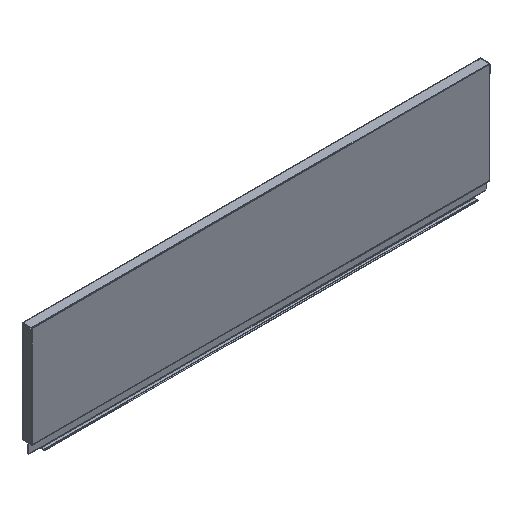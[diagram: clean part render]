
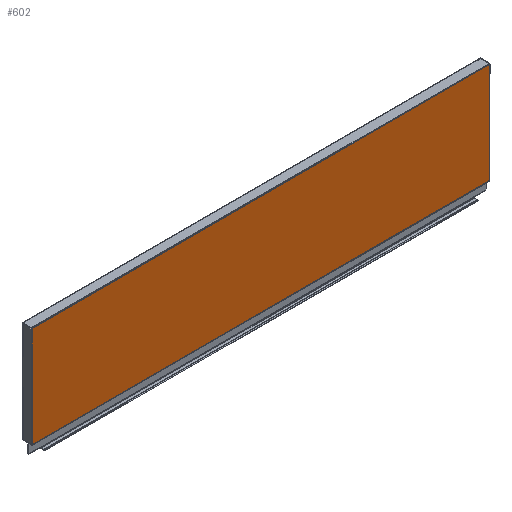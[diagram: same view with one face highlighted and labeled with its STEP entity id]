
A CAD part, isometric view. The second image highlights one B-rep face of the part: STEP entity #602.
In plain terms, the highlighted planar face has unit normal (0, -1, 0).
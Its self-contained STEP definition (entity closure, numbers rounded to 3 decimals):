
#137 = DIRECTION ( 'NONE',  ( 1., 0., 0. ) ) ;
#138 = DIRECTION ( 'NONE',  ( 0., -1., 0. ) ) ;
#139 = CARTESIAN_POINT ( 'NONE',  ( -380., -6., 17. ) ) ;
#141 = PLANE ( 'NONE',  #1191 ) ;
#203 = VERTEX_POINT ( 'NONE', #423 ) ;
#205 = VERTEX_POINT ( 'NONE', #422 ) ;
#221 = VERTEX_POINT ( 'NONE', #417 ) ;
#224 = VERTEX_POINT ( 'NONE', #416 ) ;
#228 = VERTEX_POINT ( 'NONE', #415 ) ;
#231 = VERTEX_POINT ( 'NONE', #414 ) ;
#286 = VERTEX_POINT ( 'NONE', #398 ) ;
#290 = VERTEX_POINT ( 'NONE', #397 ) ;
#320 = VERTEX_POINT ( 'NONE', #396 ) ;
#375 = CARTESIAN_POINT ( 'NONE',  ( -379., -6., 183.5 ) ) ;
#396 = CARTESIAN_POINT ( 'NONE',  ( -379., -6., 184. ) ) ;
#397 = CARTESIAN_POINT ( 'NONE',  ( 379., -6., 184. ) ) ;
#398 = CARTESIAN_POINT ( 'NONE',  ( 379., -6., 183.5 ) ) ;
#414 = CARTESIAN_POINT ( 'NONE',  ( -378.5, -6., 17.5 ) ) ;
#415 = CARTESIAN_POINT ( 'NONE',  ( 378.5, -6., 17.5 ) ) ;
#416 = CARTESIAN_POINT ( 'NONE',  ( 378.5, -6., 17. ) ) ;
#417 = CARTESIAN_POINT ( 'NONE',  ( -378.5, -6., 17. ) ) ;
#422 = CARTESIAN_POINT ( 'NONE',  ( -379., -6., 17.5 ) ) ;
#423 = CARTESIAN_POINT ( 'NONE',  ( 379., -6., 17.5 ) ) ;
#529 = VERTEX_POINT ( 'NONE', #375 ) ;
#602 = ADVANCED_FACE ( 'NONE', ( #1929 ), #141, .T. ) ;
#803 = EDGE_LOOP ( 'NONE', ( #1860, #1859, #1858, #1857, #1856, #1855, #1854, #1853, #1852, #1851 ) ) ;
#914 = DIRECTION ( 'NONE',  ( 0., 0., -1. ) ) ;
#915 = CARTESIAN_POINT ( 'NONE',  ( -379., -6., 202.385 ) ) ;
#934 = DIRECTION ( 'NONE',  ( 0., 0., -1. ) ) ;
#935 = CARTESIAN_POINT ( 'NONE',  ( 379., -6., 202.385 ) ) ;
#946 = DIRECTION ( 'NONE',  ( 1., 0., 0. ) ) ;
#948 = CARTESIAN_POINT ( 'NONE',  ( -380., -6., 17.5 ) ) ;
#950 = DIRECTION ( 'NONE',  ( 0., 0., -1. ) ) ;
#951 = CARTESIAN_POINT ( 'NONE',  ( -378.5, -6., 17.5 ) ) ;
#952 = DIRECTION ( 'NONE',  ( 1., 0., 0. ) ) ;
#954 = CARTESIAN_POINT ( 'NONE',  ( -380., -6., 17. ) ) ;
#955 = DIRECTION ( 'NONE',  ( 0., 0., 1. ) ) ;
#956 = CARTESIAN_POINT ( 'NONE',  ( 378.5, -6., 15.3 ) ) ;
#959 = DIRECTION ( 'NONE',  ( 1., 0., 0. ) ) ;
#960 = CARTESIAN_POINT ( 'NONE',  ( 378.5, -6., 17.5 ) ) ;
#961 = DIRECTION ( 'NONE',  ( 0., 0., -1. ) ) ;
#962 = CARTESIAN_POINT ( 'NONE',  ( 379., -6., 202.385 ) ) ;
#1139 = EDGE_CURVE ( 'NONE', #286, #203, #2220, .T. ) ;
#1140 = EDGE_CURVE ( 'NONE', #228, #203, #2222, .T. ) ;
#1141 = EDGE_CURVE ( 'NONE', #224, #228, #2224, .T. ) ;
#1142 = EDGE_CURVE ( 'NONE', #221, #224, #2226, .T. ) ;
#1143 = EDGE_CURVE ( 'NONE', #231, #221, #2228, .T. ) ;
#1144 = EDGE_CURVE ( 'NONE', #205, #231, #2230, .T. ) ;
#1148 = EDGE_CURVE ( 'NONE', #290, #286, #2236, .T. ) ;
#1154 = EDGE_CURVE ( 'NONE', #529, #205, #2246, .T. ) ;
#1191 = AXIS2_PLACEMENT_3D ( 'NONE', #139, #138, #137 ) ;
#1851 = ORIENTED_EDGE ( 'NONE', *, *, #2464, .T. ) ;
#1852 = ORIENTED_EDGE ( 'NONE', *, *, #2463, .F. ) ;
#1853 = ORIENTED_EDGE ( 'NONE', *, *, #1148, .F. ) ;
#1854 = ORIENTED_EDGE ( 'NONE', *, *, #1139, .F. ) ;
#1855 = ORIENTED_EDGE ( 'NONE', *, *, #1140, .T. ) ;
#1856 = ORIENTED_EDGE ( 'NONE', *, *, #1141, .T. ) ;
#1857 = ORIENTED_EDGE ( 'NONE', *, *, #1142, .T. ) ;
#1858 = ORIENTED_EDGE ( 'NONE', *, *, #1143, .T. ) ;
#1859 = ORIENTED_EDGE ( 'NONE', *, *, #1144, .T. ) ;
#1860 = ORIENTED_EDGE ( 'NONE', *, *, #1154, .T. ) ;
#1929 = FACE_OUTER_BOUND ( 'NONE', #803, .T. ) ;
#2220 = LINE ( 'NONE', #962, #2221 ) ;
#2221 = VECTOR ( 'NONE', #961, 1000. ) ;
#2222 = LINE ( 'NONE', #960, #2223 ) ;
#2223 = VECTOR ( 'NONE', #959, 1000. ) ;
#2224 = LINE ( 'NONE', #956, #2225 ) ;
#2225 = VECTOR ( 'NONE', #955, 1000. ) ;
#2226 = LINE ( 'NONE', #954, #2227 ) ;
#2227 = VECTOR ( 'NONE', #952, 1000. ) ;
#2228 = LINE ( 'NONE', #951, #2229 ) ;
#2229 = VECTOR ( 'NONE', #950, 1000. ) ;
#2230 = LINE ( 'NONE', #948, #2231 ) ;
#2231 = VECTOR ( 'NONE', #946, 1000. ) ;
#2236 = LINE ( 'NONE', #935, #2238 ) ;
#2238 = VECTOR ( 'NONE', #934, 1000. ) ;
#2246 = LINE ( 'NONE', #915, #2247 ) ;
#2247 = VECTOR ( 'NONE', #914, 1000. ) ;
#2313 = LINE ( 'NONE', #2390, #2314 ) ;
#2314 = VECTOR ( 'NONE', #2391, 1000. ) ;
#2315 = LINE ( 'NONE', #2392, #2316 ) ;
#2316 = VECTOR ( 'NONE', #2393, 1000. ) ;
#2390 = CARTESIAN_POINT ( 'NONE',  ( -380., -6., 184. ) ) ;
#2391 = DIRECTION ( 'NONE',  ( 1., 0., 0. ) ) ;
#2392 = CARTESIAN_POINT ( 'NONE',  ( -379., -6., 202.385 ) ) ;
#2393 = DIRECTION ( 'NONE',  ( 0., 0., -1. ) ) ;
#2463 = EDGE_CURVE ( 'NONE', #320, #290, #2313, .T. ) ;
#2464 = EDGE_CURVE ( 'NONE', #320, #529, #2315, .T. ) ;
